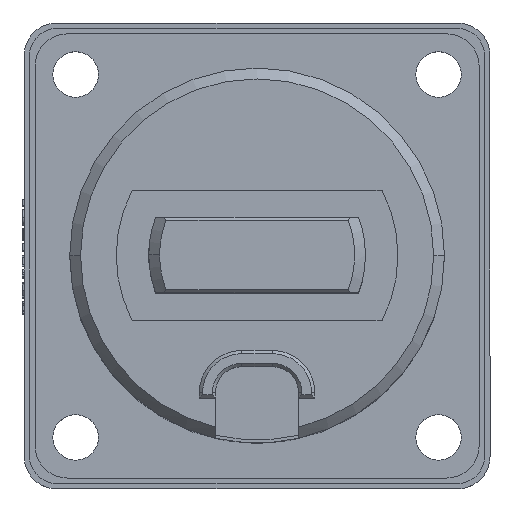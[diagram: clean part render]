
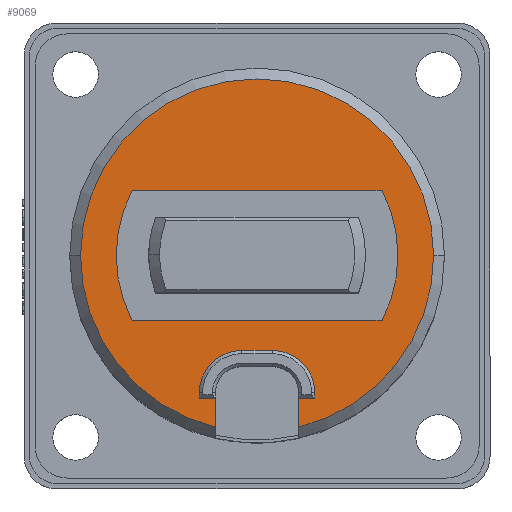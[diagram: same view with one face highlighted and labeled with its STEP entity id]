
A CAD part, top view. The second image highlights one B-rep face of the part: STEP entity #9069.
In plain terms, the highlighted planar face has unit normal (0, 0, 1).
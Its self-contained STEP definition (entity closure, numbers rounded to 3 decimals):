
#42 = FACE_BOUND ( 'NONE', #3806, .T. ) ;
#115 = VERTEX_POINT ( 'NONE', #16313 ) ;
#232 = CARTESIAN_POINT ( 'NONE',  ( 4.03, 12.401, -8.942 ) ) ;
#450 = DIRECTION ( 'NONE',  ( -1., 0., 0. ) ) ;
#684 = CARTESIAN_POINT ( 'NONE',  ( -12.27, 12.401, -8.942 ) ) ;
#894 = VECTOR ( 'NONE', #13856, 1000. ) ;
#914 = CARTESIAN_POINT ( 'NONE',  ( 4.03, 12.401, -8.942 ) ) ;
#1058 = VERTEX_POINT ( 'NONE', #18128 ) ;
#1371 = AXIS2_PLACEMENT_3D ( 'NONE', #18451, #9719, #450 ) ;
#1705 = CARTESIAN_POINT ( 'NONE',  ( 7.86, -0.266, -8.942 ) ) ;
#1720 = DIRECTION ( 'NONE',  ( 1., 0., 0. ) ) ;
#1733 = CARTESIAN_POINT ( 'NONE',  ( 4.03, 12.401, -8.942 ) ) ;
#2273 = CARTESIAN_POINT ( 'NONE',  ( 4.03, 12.401, -8.942 ) ) ;
#2383 = DIRECTION ( 'NONE',  ( -1., 0., 0. ) ) ;
#2486 = DIRECTION ( 'NONE',  ( 1., 0., 0. ) ) ;
#2620 = CARTESIAN_POINT ( 'NONE',  ( 5.46, -0.266, -8.942 ) ) ;
#2883 = VERTEX_POINT ( 'NONE', #3917 ) ;
#2934 = CARTESIAN_POINT ( 'NONE',  ( 9.36, -0.766, -8.942 ) ) ;
#3216 = DIRECTION ( 'NONE',  ( 1., 0., 0. ) ) ;
#3290 = CARTESIAN_POINT ( 'NONE',  ( -7.502, 6.401, -8.942 ) ) ;
#3465 = AXIS2_PLACEMENT_3D ( 'NONE', #14222, #4987, #15602 ) ;
#3752 = DIRECTION ( 'NONE',  ( -1., 0., 0. ) ) ;
#3806 = EDGE_LOOP ( 'NONE', ( #16197, #16222, #16283, #16355, #16374 ) ) ;
#3917 = CARTESIAN_POINT ( 'NONE',  ( 7.86, -0.766, -8.942 ) ) ;
#3967 = CARTESIAN_POINT ( 'NONE',  ( -1.299, -0.266, -8.942 ) ) ;
#4022 = DIRECTION ( 'NONE',  ( -1., 0., 0. ) ) ;
#4090 = DIRECTION ( 'NONE',  ( 1., 0., 0. ) ) ;
#4306 = VECTOR ( 'NONE', #10893, 1000. ) ;
#4775 = CIRCLE ( 'NONE', #17171, 3.9 ) ;
#4793 = CARTESIAN_POINT ( 'NONE',  ( 17.03, 12.401, -8.942 ) ) ;
#4843 = VERTEX_POINT ( 'NONE', #9903 ) ;
#4956 = CARTESIAN_POINT ( 'NONE',  ( 4.03, 12.401, -8.942 ) ) ;
#4987 = DIRECTION ( 'NONE',  ( 0., 0., 1. ) ) ;
#5273 = VECTOR ( 'NONE', #2486, 1000. ) ;
#5590 = CARTESIAN_POINT ( 'NONE',  ( 5.46, 3.634, -8.942 ) ) ;
#5756 = LINE ( 'NONE', #13267, #5273 ) ;
#5779 = VECTOR ( 'NONE', #13713, 1000. ) ;
#5790 = EDGE_CURVE ( 'NONE', #16662, #6405, #8329, .T. ) ;
#5889 = EDGE_CURVE ( 'NONE', #14788, #14502, #5756, .T. ) ;
#5891 = EDGE_CURVE ( 'NONE', #1058, #14788, #9562, .T. ) ;
#5911 = EDGE_CURVE ( 'NONE', #17603, #1058, #9048, .T. ) ;
#5916 = EDGE_CURVE ( 'NONE', #18124, #17603, #13070, .T. ) ;
#5919 = EDGE_CURVE ( 'NONE', #19012, #18124, #4775, .T. ) ;
#5948 = EDGE_CURVE ( 'NONE', #115, #19012, #17341, .T. ) ;
#5970 = EDGE_CURVE ( 'NONE', #2883, #115, #15930, .T. ) ;
#5996 = VECTOR ( 'NONE', #11599, 1000. ) ;
#6009 = EDGE_CURVE ( 'NONE', #4843, #2883, #14855, .T. ) ;
#6022 = CARTESIAN_POINT ( 'NONE',  ( -7.502, 18.401, -8.942 ) ) ;
#6032 = EDGE_CURVE ( 'NONE', #4843, #8984, #14188, .T. ) ;
#6036 = EDGE_CURVE ( 'NONE', #14502, #7841, #17993, .T. ) ;
#6137 = CARTESIAN_POINT ( 'NONE',  ( -7.502, 18.401, -8.942 ) ) ;
#6362 = DIRECTION ( 'NONE',  ( 0., 1., 0. ) ) ;
#6405 = VERTEX_POINT ( 'NONE', #13386 ) ;
#6511 = CARTESIAN_POINT ( 'NONE',  ( 0.201, -3.443, -8.942 ) ) ;
#6549 = DIRECTION ( 'NONE',  ( -1., 0., 0. ) ) ;
#6774 = VECTOR ( 'NONE', #6362, 1000. ) ;
#6875 = CIRCLE ( 'NONE', #17732, 16.3 ) ;
#7116 = EDGE_LOOP ( 'NONE', ( #16393, #16473, #16490, #16525, #16621, #16637, #16693, #16713, #16831, #16835, #16869, #16927 ) ) ;
#7212 = DIRECTION ( 'NONE',  ( 0., 0., 1. ) ) ;
#7841 = VERTEX_POINT ( 'NONE', #6511 ) ;
#7862 = VERTEX_POINT ( 'NONE', #684 ) ;
#8329 = CIRCLE ( 'NONE', #16095, 13. ) ;
#8356 = CIRCLE ( 'NONE', #17101, 16.3 ) ;
#8659 = EDGE_CURVE ( 'NONE', #10516, #16662, #15254, .T. ) ;
#8984 = VERTEX_POINT ( 'NONE', #10595 ) ;
#9048 = CIRCLE ( 'NONE', #15754, 3.9 ) ;
#9053 = EDGE_CURVE ( 'NONE', #13649, #10516, #12285, .T. ) ;
#9069 = ADVANCED_FACE ( 'NONE', ( #42, #11833 ), #15436, .F. ) ;
#9108 = LINE ( 'NONE', #6022, #894 ) ;
#9330 = CARTESIAN_POINT ( 'NONE',  ( 7.86, -0.766, -8.942 ) ) ;
#9418 = EDGE_CURVE ( 'NONE', #6405, #9907, #9108, .T. ) ;
#9562 = LINE ( 'NONE', #3967, #16840 ) ;
#9719 = DIRECTION ( 'NONE',  ( 0., 0., -1. ) ) ;
#9903 = CARTESIAN_POINT ( 'NONE',  ( 7.86, -3.443, -8.942 ) ) ;
#9907 = VERTEX_POINT ( 'NONE', #6137 ) ;
#10069 = CARTESIAN_POINT ( 'NONE',  ( 0.201, -0.266, -8.942 ) ) ;
#10166 = CARTESIAN_POINT ( 'NONE',  ( 5.46, 3.634, -8.942 ) ) ;
#10516 = VERTEX_POINT ( 'NONE', #16448 ) ;
#10595 = CARTESIAN_POINT ( 'NONE',  ( 20.33, 12.401, -8.942 ) ) ;
#10893 = DIRECTION ( 'NONE',  ( 1., 0., 0. ) ) ;
#11026 = DIRECTION ( 'NONE',  ( 0., 0., 1. ) ) ;
#11599 = DIRECTION ( 'NONE',  ( 0., -1., 0. ) ) ;
#11693 = DIRECTION ( 'NONE',  ( 0., 0., 1. ) ) ;
#11833 = FACE_OUTER_BOUND ( 'NONE', #7116, .T. ) ;
#11834 = EDGE_CURVE ( 'NONE', #7862, #7841, #6875, .T. ) ;
#11954 = CARTESIAN_POINT ( 'NONE',  ( 0.201, -0.766, -8.942 ) ) ;
#12275 = EDGE_CURVE ( 'NONE', #9907, #13649, #13829, .T. ) ;
#12285 = LINE ( 'NONE', #3290, #15620 ) ;
#12515 = DIRECTION ( 'NONE',  ( 0., 0., 1. ) ) ;
#13070 = LINE ( 'NONE', #5590, #16360 ) ;
#13076 = DIRECTION ( 'NONE',  ( 0., 0., 1. ) ) ;
#13267 = CARTESIAN_POINT ( 'NONE',  ( -1.299, -0.766, -8.942 ) ) ;
#13386 = CARTESIAN_POINT ( 'NONE',  ( 15.563, 18.401, -8.942 ) ) ;
#13407 = DIRECTION ( 'NONE',  ( 0., 0., 1. ) ) ;
#13506 = CARTESIAN_POINT ( 'NONE',  ( -7.502, 6.401, -8.942 ) ) ;
#13649 = VERTEX_POINT ( 'NONE', #13506 ) ;
#13713 = DIRECTION ( 'NONE',  ( 0., 1., 0. ) ) ;
#13829 = CIRCLE ( 'NONE', #17572, 13. ) ;
#13856 = DIRECTION ( 'NONE',  ( -1., 0., 0. ) ) ;
#13994 = EDGE_CURVE ( 'NONE', #8984, #7862, #8356, .T. ) ;
#14188 = CIRCLE ( 'NONE', #15292, 16.3 ) ;
#14222 = CARTESIAN_POINT ( 'NONE',  ( 4.03, 12.401, -8.942 ) ) ;
#14502 = VERTEX_POINT ( 'NONE', #11954 ) ;
#14788 = VERTEX_POINT ( 'NONE', #17796 ) ;
#14855 = LINE ( 'NONE', #1705, #6774 ) ;
#15254 = CIRCLE ( 'NONE', #3465, 13. ) ;
#15292 = AXIS2_PLACEMENT_3D ( 'NONE', #2273, #13076, #3752 ) ;
#15436 = PLANE ( 'NONE',  #1371 ) ;
#15570 = DIRECTION ( 'NONE',  ( 0., 0., 1. ) ) ;
#15602 = DIRECTION ( 'NONE',  ( 1., 0., 0. ) ) ;
#15620 = VECTOR ( 'NONE', #16897, 1000. ) ;
#15754 = AXIS2_PLACEMENT_3D ( 'NONE', #16144, #7212, #17657 ) ;
#15930 = LINE ( 'NONE', #9330, #4306 ) ;
#16095 = AXIS2_PLACEMENT_3D ( 'NONE', #232, #11026, #1720 ) ;
#16144 = CARTESIAN_POINT ( 'NONE',  ( 2.601, -0.266, -8.942 ) ) ;
#16197 = ORIENTED_EDGE ( 'NONE', *, *, #9418, .F. ) ;
#16222 = ORIENTED_EDGE ( 'NONE', *, *, #5790, .F. ) ;
#16283 = ORIENTED_EDGE ( 'NONE', *, *, #8659, .F. ) ;
#16313 = CARTESIAN_POINT ( 'NONE',  ( 9.36, -0.766, -8.942 ) ) ;
#16355 = ORIENTED_EDGE ( 'NONE', *, *, #9053, .F. ) ;
#16360 = VECTOR ( 'NONE', #4022, 1000. ) ;
#16374 = ORIENTED_EDGE ( 'NONE', *, *, #12275, .F. ) ;
#16393 = ORIENTED_EDGE ( 'NONE', *, *, #5889, .F. ) ;
#16448 = CARTESIAN_POINT ( 'NONE',  ( 15.563, 6.401, -8.942 ) ) ;
#16473 = ORIENTED_EDGE ( 'NONE', *, *, #5891, .F. ) ;
#16490 = ORIENTED_EDGE ( 'NONE', *, *, #5911, .F. ) ;
#16525 = ORIENTED_EDGE ( 'NONE', *, *, #5916, .F. ) ;
#16621 = ORIENTED_EDGE ( 'NONE', *, *, #5919, .F. ) ;
#16637 = ORIENTED_EDGE ( 'NONE', *, *, #5948, .F. ) ;
#16662 = VERTEX_POINT ( 'NONE', #4793 ) ;
#16693 = ORIENTED_EDGE ( 'NONE', *, *, #5970, .F. ) ;
#16713 = ORIENTED_EDGE ( 'NONE', *, *, #6009, .F. ) ;
#16831 = ORIENTED_EDGE ( 'NONE', *, *, #6032, .T. ) ;
#16835 = ORIENTED_EDGE ( 'NONE', *, *, #13994, .T. ) ;
#16840 = VECTOR ( 'NONE', #17592, 1000. ) ;
#16869 = ORIENTED_EDGE ( 'NONE', *, *, #11834, .T. ) ;
#16897 = DIRECTION ( 'NONE',  ( 1., 0., 0. ) ) ;
#16927 = ORIENTED_EDGE ( 'NONE', *, *, #6036, .F. ) ;
#17101 = AXIS2_PLACEMENT_3D ( 'NONE', #4956, #15570, #6549 ) ;
#17171 = AXIS2_PLACEMENT_3D ( 'NONE', #2620, #13407, #4090 ) ;
#17341 = LINE ( 'NONE', #2934, #5779 ) ;
#17572 = AXIS2_PLACEMENT_3D ( 'NONE', #1733, #12515, #3216 ) ;
#17592 = DIRECTION ( 'NONE',  ( 0., -1., 0. ) ) ;
#17603 = VERTEX_POINT ( 'NONE', #18699 ) ;
#17657 = DIRECTION ( 'NONE',  ( 1., 0., 0. ) ) ;
#17732 = AXIS2_PLACEMENT_3D ( 'NONE', #914, #11693, #2383 ) ;
#17796 = CARTESIAN_POINT ( 'NONE',  ( -1.299, -0.766, -8.942 ) ) ;
#17993 = LINE ( 'NONE', #10069, #5996 ) ;
#18124 = VERTEX_POINT ( 'NONE', #10166 ) ;
#18128 = CARTESIAN_POINT ( 'NONE',  ( -1.299, -0.266, -8.942 ) ) ;
#18451 = CARTESIAN_POINT ( 'NONE',  ( 4.03, 19.851, -8.942 ) ) ;
#18699 = CARTESIAN_POINT ( 'NONE',  ( 2.601, 3.634, -8.942 ) ) ;
#19012 = VERTEX_POINT ( 'NONE', #19148 ) ;
#19148 = CARTESIAN_POINT ( 'NONE',  ( 9.36, -0.266, -8.942 ) ) ;
